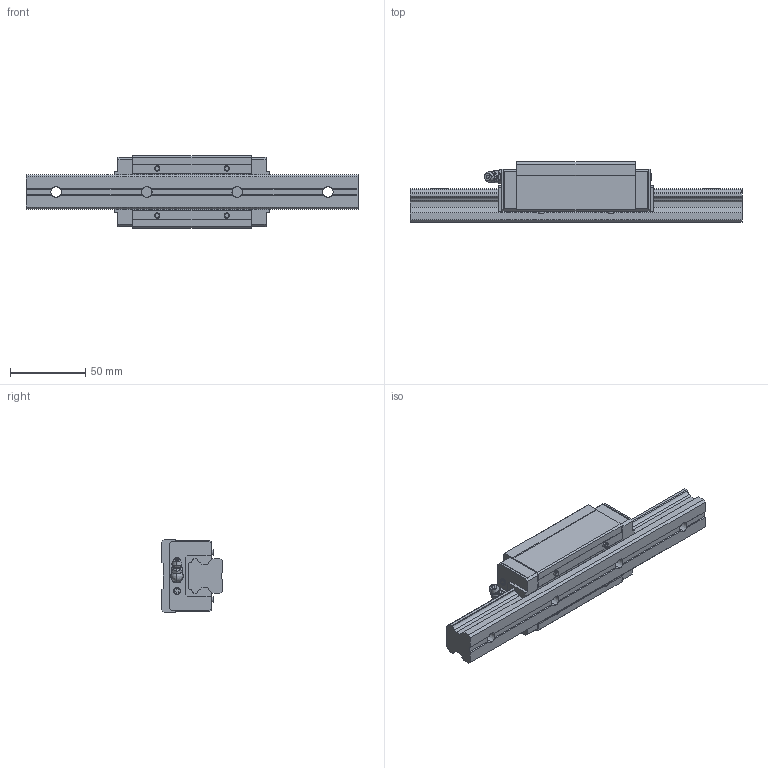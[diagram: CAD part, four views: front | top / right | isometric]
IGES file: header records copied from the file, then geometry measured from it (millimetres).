
Start section: SolidWorks IGES file using analytic representation for surfaces
Global section: file name: D:\Qsync\EOS Design B.V\Projecten\LM Systems\Models HSV\FINISHED\HSR25LRSSC.IGS; native system: SolidWorks 2016; preprocessor: SolidWorks 2016; author: EOS; date: 160329.132436; units: millimetre
Bounding box: 220 x 40 x 48 mm (x, y, z)
Surface area: 46655.7 mm2 (no closed solid volume)
Topology: 0 solids, 0 shells, 309 faces, 3156 edges, 3140 vertices
Faces by surface type: bspline 215, revolution 94
